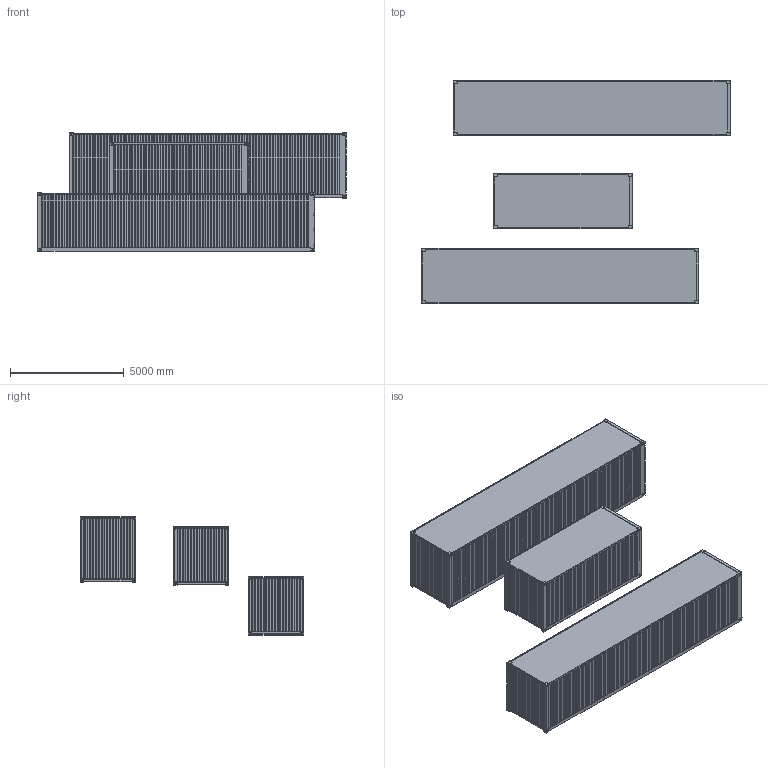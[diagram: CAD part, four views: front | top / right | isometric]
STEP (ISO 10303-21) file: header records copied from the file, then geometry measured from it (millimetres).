
FILE_DESCRIPTION((''),'2;1');
FILE_NAME('C:\Dokumente und Einstellungen\jwagner\Desktop\___IV__TEMP__\container\container.stp','2005-03-24T11:04:44',('jwagner'),(''),'Autodesk Inventor 9','Autodesk Inventor 9','');
FILE_SCHEMA(('AUTOMOTIVE_DESIGN { 1 0 10303 214 1 1 1 1 }'));
Length unit declared in the file: inch
Products named in the file (35): Containers; Assembly - Container20ft; Lift Block; Front Post; Rear Post; Hinge Rod; Lower Rail20ft; Rail - Front; Passenger Side20ft; Driver Side20ft; Front Side; Upper Rail20ft; Rear Lower Rail; Rear Upper Rail; Floor20ft; Roof20ft; Door - Rear; Assembly - Container40ftHi; Front PostHi; Rear PostHi; Lower Rail; Passenger Side; Driver Side; Front SideHi; Upper Rail; Floor; Roof; Door - RearHi; Assembly - Container40ft; Lower Rail40ft; Passenger Side40ft; Driver Side40ft; Upper Rail40ft; Floor40ft; Roof40ft
Assembly tree (90 placements, depth 3):
  Containers
    Assembly - Container20ft
      Lift Block  x8
      Front Post  x2
      Rear Post  x2
      Hinge Rod  x2
      Lower Rail20ft  x2
      Rail - Front  x2
      Passenger Side20ft
      Driver Side20ft
      Front Side
      Upper Rail20ft  x2
      Rear Lower Rail
      Rear Upper Rail
      Floor20ft
      Roof20ft
      Door - Rear  x2
    Assembly - Container40ftHi
      Lift Block  x8
      Front PostHi  x2
      Rear PostHi  x2
      Hinge Rod  x2
      Lower Rail  x2
      Rail - Front  x2
      Passenger Side
      Driver Side
      Front SideHi
      Upper Rail  x2
      Rear Lower Rail
      Rear Upper Rail
      Floor
      Roof
      Door - RearHi  x2
    Assembly - Container40ft
      Lift Block  x8
      Front Post  x2
      Rear Post  x2
      Hinge Rod  x2
      Lower Rail40ft  x2
      Rail - Front  x2
      Passenger Side40ft
      Driver Side40ft
      Front Side
      Upper Rail40ft  x2
      Rear Lower Rail
      Rear Upper Rail
      Floor40ft
      Roof40ft
      Door - Rear  x2
Bounding box: 13562.9 x 9842.93 x 5241.19 mm (x, y, z)
Volume: 13430146421 mm3; surface area: 739241019.9 mm2
Topology: 87 solids, 87 shells, 3664 faces, 10278 edges, 6836 vertices
Faces by surface type: plane 3136, cylinder 408, bspline 120
Entity records: 75339 total; most frequent: CARTESIAN_POINT 13773, ORIENTED_EDGE 13240, DIRECTION 11474, EDGE_CURVE 6620, VECTOR 6488, LINE 6488, VERTEX_POINT 4408, AXIS2_PLACEMENT_3D 2493
